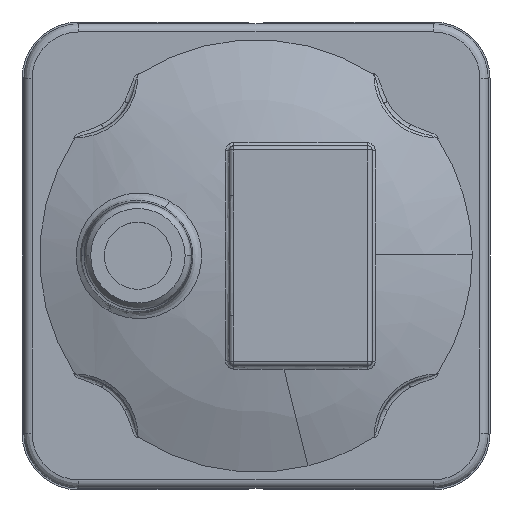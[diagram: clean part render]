
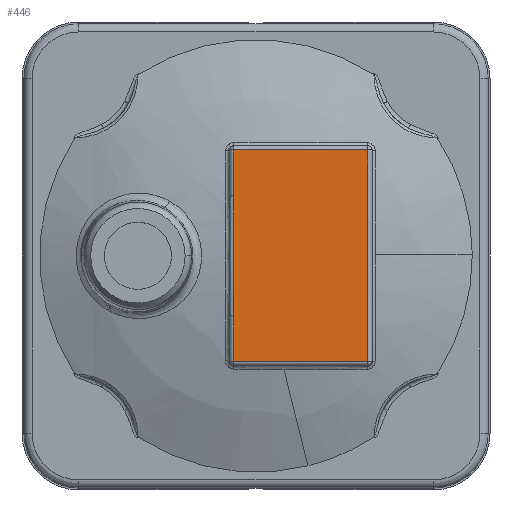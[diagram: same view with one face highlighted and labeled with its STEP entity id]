
A CAD part, top view. The second image highlights one B-rep face of the part: STEP entity #446.
In plain terms, the highlighted planar face has unit normal (0, 0, 1).
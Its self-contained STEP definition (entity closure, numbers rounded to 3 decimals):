
#446=ADVANCED_FACE('',(#3812),#3811,.T.);
#3811=PLANE('',#16779);
#3812=FACE_OUTER_BOUND('',#16780,.T.);
#16776=CARTESIAN_POINT('',(-8.981,-31.2,22.6));
#16777=DIRECTION('',(0.,0.,1.));
#16778=DIRECTION('',(1.,0.,0.));
#16779=AXIS2_PLACEMENT_3D('',#16776,#16777,#16778);
#16780=EDGE_LOOP('',(#18808,#18809,#18810,#18811,#18812,#18813));
#18808=ORIENTED_EDGE('',*,*,#19664,.T.);
#18809=ORIENTED_EDGE('',*,*,#19670,.T.);
#18810=ORIENTED_EDGE('',*,*,#19657,.T.);
#18811=ORIENTED_EDGE('',*,*,#19656,.T.);
#18812=ORIENTED_EDGE('',*,*,#19730,.T.);
#18813=ORIENTED_EDGE('',*,*,#19660,.T.);
#19656=EDGE_CURVE('',#24632,#24647,#24654,.T.);
#19657=EDGE_CURVE('',#24660,#24632,#24661,.T.);
#19660=EDGE_CURVE('',#24680,#24681,#24682,.T.);
#19664=EDGE_CURVE('',#24681,#24707,#24708,.T.);
#19670=EDGE_CURVE('',#24707,#24660,#24748,.T.);
#19730=EDGE_CURVE('',#24647,#24680,#25127,.T.);
#24632=VERTEX_POINT('',#30363);
#24647=VERTEX_POINT('',#30380);
#24654=(BOUNDED_CURVE() B_SPLINE_CURVE(3,(#30385,#30386,#30387,#30388,#30389,#30390,#30391,#30392,#30393,#30394),.UNSPECIFIED.,.F.,.F.) B_SPLINE_CURVE_WITH_KNOTS((4,2,2,2,4),(0.,0.007,0.015,0.022,0.029),.UNSPECIFIED.) CURVE() GEOMETRIC_REPRESENTATION_ITEM() RATIONAL_B_SPLINE_CURVE((1.,1.,1.,1.,1.,1.,1.,1.,1.,1.)) REPRESENTATION_ITEM('') );
#24660=VERTEX_POINT('',#30395);
#24661=LINE('',#30396,#30397);
#24680=VERTEX_POINT('',#30407);
#24681=VERTEX_POINT('',#30408);
#24682=LINE('',#30409,#30410);
#24707=VERTEX_POINT('',#30424);
#24708=LINE('',#30425,#30426);
#24748=LINE('',#30450,#30451);
#25127=LINE('',#30945,#30946);
#30363=CARTESIAN_POINT('',(-5.5,14.722,22.6));
#30380=CARTESIAN_POINT('',(-5.5,-14.722,22.6));
#30385=CARTESIAN_POINT('',(-5.5,14.722,22.6));
#30386=CARTESIAN_POINT('',(-5.5,12.268,22.6));
#30387=CARTESIAN_POINT('',(-5.549,9.814,22.6));
#30388=CARTESIAN_POINT('',(-5.632,4.907,22.6));
#30389=CARTESIAN_POINT('',(-5.665,2.453,22.6));
#30390=CARTESIAN_POINT('',(-5.665,-2.455,22.6));
#30391=CARTESIAN_POINT('',(-5.632,-4.908,22.6));
#30392=CARTESIAN_POINT('',(-5.549,-9.815,22.6));
#30393=CARTESIAN_POINT('',(-5.5,-12.269,22.6));
#30394=CARTESIAN_POINT('',(-5.5,-14.722,22.6));
#30395=CARTESIAN_POINT('',(-5.5,26.,22.6));
#30396=CARTESIAN_POINT('',(-5.5,26.,22.6));
#30397=VECTOR('',#30398,11.278);
#30398=DIRECTION('',(0.,-1.,0.));
#30407=CARTESIAN_POINT('',(-5.5,-26.,22.6));
#30408=CARTESIAN_POINT('',(27.5,-26.,22.6));
#30409=CARTESIAN_POINT('',(-5.5,-26.,22.6));
#30410=VECTOR('',#30411,33.);
#30411=DIRECTION('',(1.,0.,0.));
#30424=CARTESIAN_POINT('',(27.5,26.,22.6));
#30425=CARTESIAN_POINT('',(27.5,-26.,22.6));
#30426=VECTOR('',#30427,52.);
#30427=DIRECTION('',(0.,1.,0.));
#30450=CARTESIAN_POINT('',(27.5,26.,22.6));
#30451=VECTOR('',#30452,33.);
#30452=DIRECTION('',(-1.,0.,0.));
#30945=CARTESIAN_POINT('',(-5.5,-14.722,22.6));
#30946=VECTOR('',#30947,11.278);
#30947=DIRECTION('',(0.,-1.,0.));
